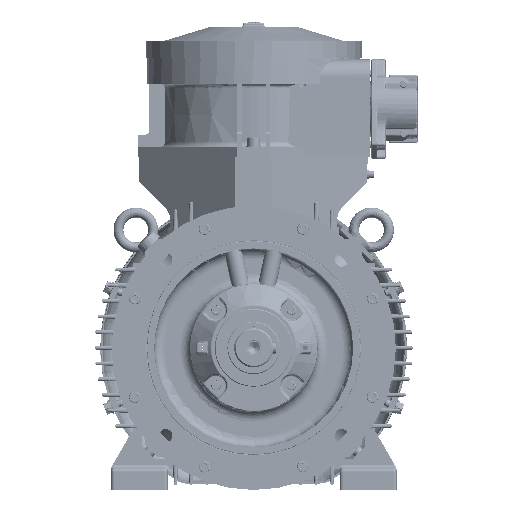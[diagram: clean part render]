
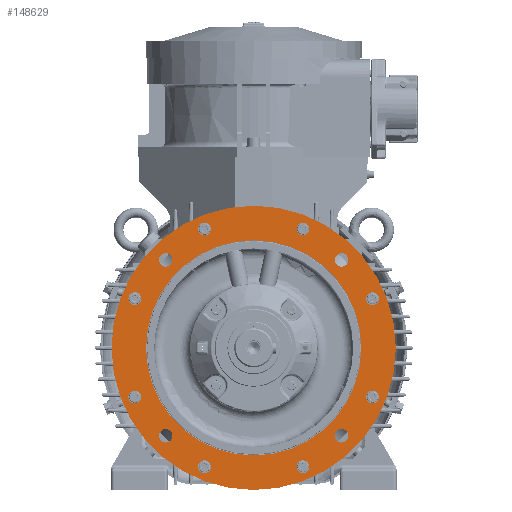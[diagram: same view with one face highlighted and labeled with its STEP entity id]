
A CAD part, left-side view. The second image highlights one B-rep face of the part: STEP entity #148629.
In plain terms, the highlighted planar face has unit normal (-1, 0, 0).
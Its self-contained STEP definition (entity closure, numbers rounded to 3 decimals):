
#27574=PLANE('',#158278);
#44418=ORIENTED_EDGE('',*,*,#77309,.F.);
#44419=ORIENTED_EDGE('',*,*,#77307,.F.);
#44420=ORIENTED_EDGE('',*,*,#77302,.T.);
#44421=ORIENTED_EDGE('',*,*,#77298,.T.);
#44422=ORIENTED_EDGE('',*,*,#77294,.T.);
#44423=ORIENTED_EDGE('',*,*,#77290,.T.);
#44424=ORIENTED_EDGE('',*,*,#77286,.T.);
#44425=ORIENTED_EDGE('',*,*,#77282,.T.);
#44426=ORIENTED_EDGE('',*,*,#77278,.T.);
#44427=ORIENTED_EDGE('',*,*,#77274,.T.);
#44428=ORIENTED_EDGE('',*,*,#77272,.F.);
#44429=ORIENTED_EDGE('',*,*,#77270,.F.);
#44430=ORIENTED_EDGE('',*,*,#77268,.F.);
#44431=ORIENTED_EDGE('',*,*,#77266,.F.);
#77266=EDGE_CURVE('',#94635,#94635,#105503,.T.);
#77268=EDGE_CURVE('',#94637,#94637,#105505,.T.);
#77270=EDGE_CURVE('',#94639,#94639,#105507,.T.);
#77272=EDGE_CURVE('',#94641,#94641,#105509,.T.);
#77274=EDGE_CURVE('',#94643,#94643,#105511,.T.);
#77278=EDGE_CURVE('',#94647,#94647,#105515,.T.);
#77282=EDGE_CURVE('',#94651,#94651,#105519,.T.);
#77286=EDGE_CURVE('',#94655,#94655,#105523,.T.);
#77290=EDGE_CURVE('',#94659,#94659,#105527,.T.);
#77294=EDGE_CURVE('',#94663,#94663,#105531,.T.);
#77298=EDGE_CURVE('',#94667,#94667,#105535,.T.);
#77302=EDGE_CURVE('',#94671,#94671,#105539,.T.);
#77307=EDGE_CURVE('',#94676,#94676,#105544,.T.);
#77309=EDGE_CURVE('',#94678,#94678,#105546,.T.);
#94635=VERTEX_POINT('',#225044);
#94637=VERTEX_POINT('',#225049);
#94639=VERTEX_POINT('',#225054);
#94641=VERTEX_POINT('',#225059);
#94643=VERTEX_POINT('',#225064);
#94647=VERTEX_POINT('',#225075);
#94651=VERTEX_POINT('',#225086);
#94655=VERTEX_POINT('',#225097);
#94659=VERTEX_POINT('',#225108);
#94663=VERTEX_POINT('',#225119);
#94667=VERTEX_POINT('',#225130);
#94671=VERTEX_POINT('',#225141);
#94676=VERTEX_POINT('',#225155);
#94678=VERTEX_POINT('',#225161);
#105503=CIRCLE('',#158205,9.5);
#105505=CIRCLE('',#158208,9.5);
#105507=CIRCLE('',#158211,9.5);
#105509=CIRCLE('',#158214,9.5);
#105511=CIRCLE('',#158217,9.);
#105515=CIRCLE('',#158224,9.);
#105519=CIRCLE('',#158231,9.);
#105523=CIRCLE('',#158238,9.);
#105527=CIRCLE('',#158245,9.);
#105531=CIRCLE('',#158252,9.);
#105535=CIRCLE('',#158259,9.);
#105539=CIRCLE('',#158266,9.);
#105544=CIRCLE('',#158275,151.4);
#105546=CIRCLE('',#158279,199.994);
#111302=EDGE_LOOP('',(#44418));
#111303=EDGE_LOOP('',(#44419));
#111304=EDGE_LOOP('',(#44420));
#111305=EDGE_LOOP('',(#44421));
#111306=EDGE_LOOP('',(#44422));
#111307=EDGE_LOOP('',(#44423));
#111308=EDGE_LOOP('',(#44424));
#111309=EDGE_LOOP('',(#44425));
#111310=EDGE_LOOP('',(#44426));
#111311=EDGE_LOOP('',(#44427));
#111312=EDGE_LOOP('',(#44428));
#111313=EDGE_LOOP('',(#44429));
#111314=EDGE_LOOP('',(#44430));
#111315=EDGE_LOOP('',(#44431));
#121597=FACE_BOUND('',#111302,.T.);
#121598=FACE_BOUND('',#111303,.T.);
#121599=FACE_BOUND('',#111304,.T.);
#121600=FACE_BOUND('',#111305,.T.);
#121601=FACE_BOUND('',#111306,.T.);
#121602=FACE_BOUND('',#111307,.T.);
#121603=FACE_BOUND('',#111308,.T.);
#121604=FACE_BOUND('',#111309,.T.);
#121605=FACE_BOUND('',#111310,.T.);
#121606=FACE_BOUND('',#111311,.T.);
#121607=FACE_BOUND('',#111312,.T.);
#121608=FACE_BOUND('',#111313,.T.);
#121609=FACE_BOUND('',#111314,.T.);
#121610=FACE_BOUND('',#111315,.T.);
#148629=ADVANCED_FACE('',(#121597,#121598,#121599,#121600,#121601,#121602,
#121603,#121604,#121605,#121606,#121607,#121608,#121609,#121610),#27574,
 .F.);
#158205=AXIS2_PLACEMENT_3D('',#225043,#176902,#176903);
#158208=AXIS2_PLACEMENT_3D('',#225048,#176908,#176909);
#158211=AXIS2_PLACEMENT_3D('',#225053,#176914,#176915);
#158214=AXIS2_PLACEMENT_3D('',#225058,#176920,#176921);
#158217=AXIS2_PLACEMENT_3D('',#225063,#176926,#176927);
#158224=AXIS2_PLACEMENT_3D('',#225074,#176940,#176941);
#158231=AXIS2_PLACEMENT_3D('',#225085,#176954,#176955);
#158238=AXIS2_PLACEMENT_3D('',#225096,#176968,#176969);
#158245=AXIS2_PLACEMENT_3D('',#225107,#176982,#176983);
#158252=AXIS2_PLACEMENT_3D('',#225118,#176996,#176997);
#158259=AXIS2_PLACEMENT_3D('',#225129,#177010,#177011);
#158266=AXIS2_PLACEMENT_3D('',#225140,#177024,#177025);
#158275=AXIS2_PLACEMENT_3D('',#225154,#177042,#177043);
#158278=AXIS2_PLACEMENT_3D('',#225159,#177048,#177049);
#158279=AXIS2_PLACEMENT_3D('',#225160,#177050,#177051);
#176902=DIRECTION('',(-1.,0.,0.));
#176903=DIRECTION('',(0.,-1.,0.));
#176908=DIRECTION('',(-1.,0.,0.));
#176909=DIRECTION('',(0.,-1.,0.));
#176914=DIRECTION('',(-1.,0.,0.));
#176915=DIRECTION('',(0.,-1.,0.));
#176920=DIRECTION('',(-1.,0.,0.));
#176921=DIRECTION('',(0.,-1.,0.));
#176926=DIRECTION('',(1.,0.,0.));
#176927=DIRECTION('',(0.,0.,-1.));
#176940=DIRECTION('',(1.,0.,0.));
#176941=DIRECTION('',(0.,0.,-1.));
#176954=DIRECTION('',(1.,0.,0.));
#176955=DIRECTION('',(0.,0.,-1.));
#176968=DIRECTION('',(1.,0.,0.));
#176969=DIRECTION('',(0.,0.,-1.));
#176982=DIRECTION('',(1.,0.,0.));
#176983=DIRECTION('',(0.,0.,-1.));
#176996=DIRECTION('',(1.,0.,0.));
#176997=DIRECTION('',(0.,0.,-1.));
#177010=DIRECTION('',(1.,0.,0.));
#177011=DIRECTION('',(0.,0.,-1.));
#177024=DIRECTION('',(1.,0.,0.));
#177025=DIRECTION('',(0.,0.,-1.));
#177042=DIRECTION('',(-1.,0.,0.));
#177043=DIRECTION('',(0.,0.,-1.));
#177048=DIRECTION('',(1.,0.,0.));
#177049=DIRECTION('',(0.,0.,1.));
#177050=DIRECTION('',(1.,0.,0.));
#177051=DIRECTION('',(0.,0.,1.));
#225043=CARTESIAN_POINT('',(-77.014,123.744,-123.744));
#225044=CARTESIAN_POINT('',(-77.014,114.244,-123.744));
#225048=CARTESIAN_POINT('',(-77.014,-123.761,-123.726));
#225049=CARTESIAN_POINT('',(-77.014,-133.261,-123.726));
#225053=CARTESIAN_POINT('',(-77.014,-123.744,123.744));
#225054=CARTESIAN_POINT('',(-77.014,-133.244,123.744));
#225058=CARTESIAN_POINT('',(-77.014,123.744,123.744));
#225059=CARTESIAN_POINT('',(-77.014,114.244,123.744));
#225063=CARTESIAN_POINT('',(-77.014,69.266,167.222));
#225064=CARTESIAN_POINT('',(-77.014,69.266,158.222));
#225074=CARTESIAN_POINT('',(-77.014,167.222,69.266));
#225075=CARTESIAN_POINT('',(-77.014,167.222,60.266));
#225085=CARTESIAN_POINT('',(-77.014,167.222,-69.266));
#225086=CARTESIAN_POINT('',(-77.014,167.222,-78.266));
#225096=CARTESIAN_POINT('',(-77.014,69.266,-167.222));
#225097=CARTESIAN_POINT('',(-77.014,69.266,-176.222));
#225107=CARTESIAN_POINT('',(-77.014,-69.266,-167.222));
#225108=CARTESIAN_POINT('',(-77.014,-69.266,-176.222));
#225118=CARTESIAN_POINT('',(-77.014,-167.222,-69.266));
#225119=CARTESIAN_POINT('',(-77.014,-167.222,-78.266));
#225129=CARTESIAN_POINT('',(-77.014,-167.222,69.266));
#225130=CARTESIAN_POINT('',(-77.014,-167.222,60.266));
#225140=CARTESIAN_POINT('',(-77.014,-69.266,167.222));
#225141=CARTESIAN_POINT('',(-77.014,-69.266,158.222));
#225154=CARTESIAN_POINT('',(-77.014,0.,0.));
#225155=CARTESIAN_POINT('',(-77.014,0.,-151.4));
#225159=CARTESIAN_POINT('',(-77.014,0.,-209.218));
#225160=CARTESIAN_POINT('',(-77.014,0.,0.));
#225161=CARTESIAN_POINT('',(-77.014,0.,199.994));
